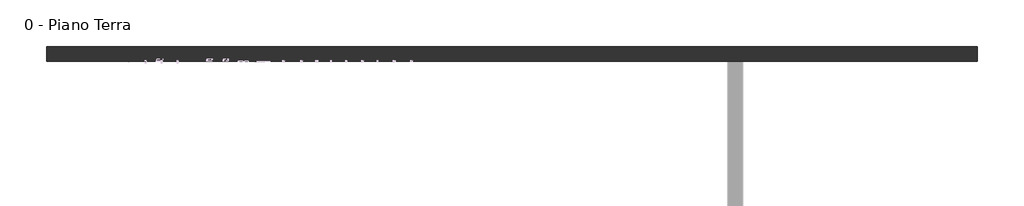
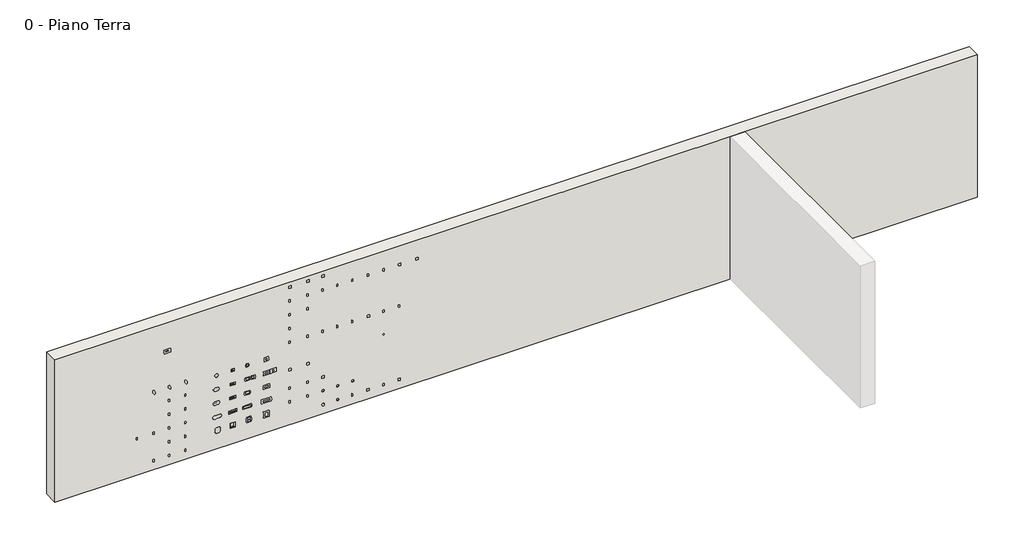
# One storey, part 1 of 2: 1 wall.
"""IFC4 building model written with IfcOpenShell, lengths in millimetres."""

from ifc_helpers import new_model, si_unit, frame, origin, place, context, project, spatial, polyline, circle_curve, element, save
from ifc_brep_helpers import plane_surface, revolved_surface, advanced_brep

model = new_model("IFC4")

# Units and contexts
model_context = context("Model", 3, world=origin())
ifc_project = project(units=[si_unit("LENGTHUNIT", "METRE", prefix="MILLI")], contexts=[model_context])

# Site, building, storey
site = spatial("IfcSite", under=ifc_project)
building = spatial("IfcBuilding", under=site)
storey = spatial("IfcBuildingStorey", under=building, Name="0 - Piano Terra", Elevation=0.0)

# Wall
placement = place(None, origin())
element("IfcWall", 1, ObjectType="Generico - 30 cm", at=placement, inside=storey, context=model_context, shape_type="AdvancedBrep", body=[
    advanced_brep(
    [(-8396.0209547, -424.5551505, 0.0), (5509.9790453, -424.5551505, 0.0), (5809.9790453, -424.5551505, 0.0), (10603.9790453, -424.5551505, 0.0), (10603.9790453, -424.5551505, 3100.0), (5809.9790453, -424.5551505, 3100.0), (5509.9790453, -424.5551505, 3100.0), (-8396.0209547, -424.5551505, 3100.0), (-4705.5209547, -424.5551505, 1628.0), (-4705.5209547, -424.5551505, 1572.0), (-4765.5209547, -424.5551505, 1572.0), (-4765.5209547, -424.5551505, 1628.0), (-4687.0209547, -424.5551505, 1330.0), (-4687.0209547, -424.5551505, 1270.0), (-4784.0209547, -424.5551505, 1270.0), (-4784.0209547, -424.5551505, 1330.0), (-4674.5209547, -424.5551505, 1030.0), (-4674.5209547, -424.5551505, 970.0), (-4796.5209547, -424.5551505, 970.0), (-4796.5209547, -424.5551505, 1030.0), (-4649.5209547, -424.5551505, 730.0), (-4649.5209547, -424.5551505, 670.0), (-4821.5209547, -424.5551505, 670.0), (-4821.5209547, -424.5551505, 730.0), (-4687.0209547, -424.5551505, 453.0), (-4687.0209547, -424.5551505, 347.0), (-4784.0209547, -424.5551505, 347.0), (-4784.0209547, -424.5551505, 453.0), (-2897.23779, -424.5551505, 500.0), (-2854.23779, -424.5551505, 500.0), (-2595.3938702, -424.5551505, 500.0), (-2552.3938702, -424.5551505, 500.0), (-2285.8798643, -424.5551505, 500.0), (-2242.8798643, -424.5551505, 500.0), (-2897.23779, -424.5551505, 200.0), (-2854.23779, -424.5551505, 200.0), (-2595.3938702, -424.5551505, 200.0), (-2552.3938702, -424.5551505, 200.0), (-5090.5209547, -424.5551505, 1330.0), (-5049.5209547, -424.5551505, 1330.0), (-5018.5209547, -424.5551505, 1299.0), (-5018.5209547, -424.5551505, 1294.0), (-5049.5209547, -424.5551505, 1263.0), (-5090.5209547, -424.5551505, 1263.0), (-5121.5209547, -424.5551505, 1294.0), (-5121.5209547, -424.5551505, 1299.0), (-5102.0209547, -424.5551505, 1030.0), (-5038.0209547, -424.5551505, 1030.0), (-5007.0209547, -424.5551505, 999.0), (-5007.0209547, -424.5551505, 994.0), (-5038.0209547, -424.5551505, 963.0), (-5102.0209547, -424.5551505, 963.0), (-5133.0209547, -424.5551505, 994.0), (-5133.0209547, -424.5551505, 999.0), (-5117.0209547, -424.5551505, 730.0), (-4999.0209547, -424.5551505, 730.0), (-4968.0209547, -424.5551505, 699.0), (-4968.0209547, -424.5551505, 694.0), (-4999.0209547, -424.5551505, 663.0), (-5117.0209547, -424.5551505, 663.0), (-5148.0209547, -424.5551505, 694.0), (-5148.0209547, -424.5551505, 699.0), (-5065.5209547, -424.5551505, 457.0), (-5024.5209547, -424.5551505, 457.0), (-4993.5209547, -424.5551505, 426.0), (-4993.5209547, -424.5551505, 374.0), (-5024.5209547, -424.5551505, 343.0), (-5065.5209547, -424.5551505, 343.0), (-5096.5209547, -424.5551505, 374.0), (-5096.5209547, -424.5551505, 426.0), (-5071.0209547, -424.5551505, 1632.0), (-5069.0209547, -424.5551505, 1632.0), (-5038.0209547, -424.5551505, 1601.0), (-5038.0209547, -424.5551505, 1596.0), (-5069.0209547, -424.5551505, 1565.0), (-5071.0209547, -424.5551505, 1565.0), (-5102.0209547, -424.5551505, 1596.0), (-5102.0209547, -424.5551505, 1601.0), (-6025.207539, -424.5551505, 2516.8190499), (-6025.207539, -424.5551505, 2456.8190499), (-6147.207539, -424.5551505, 2456.8190499), (-6147.207539, -424.5551505, 2516.8190499), (10603.9790453, -124.5551505, 0.0), (-8396.0209547, -124.5551505, 0.0), (-8396.0209547, -124.5551505, 3100.0), (10603.9790453, -124.5551505, 3100.0), (-4705.5209547, -410.5551505, 1628.0), (-4705.5209547, -410.5551505, 1634.0), (-4705.5209547, -374.5551505, 1634.0), (-4705.5209547, -374.5551505, 1566.0), (-4705.5209547, -410.5551505, 1566.0), (-4705.5209547, -410.5551505, 1572.0), (-4765.5209547, -410.5551505, 1628.0), (-4765.5209547, -410.5551505, 1572.0), (-4765.5209547, -410.5551505, 1566.0), (-4765.5209547, -374.5551505, 1566.0), (-4765.5209547, -374.5551505, 1634.0), (-4765.5209547, -410.5551505, 1634.0), (-4687.0209547, -410.5551505, 1330.0), (-4687.0209547, -410.5551505, 1336.0), (-4687.0209547, -374.5551505, 1336.0), (-4687.0209547, -374.5551505, 1264.0), (-4687.0209547, -410.5551505, 1264.0), (-4687.0209547, -410.5551505, 1270.0), (-4784.0209547, -410.5551505, 1330.0), (-4784.0209547, -410.5551505, 1270.0), (-4784.0209547, -410.5551505, 1264.0), (-4784.0209547, -374.5551505, 1264.0), (-4784.0209547, -374.5551505, 1336.0), (-4784.0209547, -410.5551505, 1336.0), (-4674.5209547, -410.5551505, 1030.0), (-4674.5209547, -410.5551505, 1036.0), (-4674.5209547, -374.5551505, 1036.0), (-4674.5209547, -374.5551505, 964.0), (-4674.5209547, -410.5551505, 964.0), (-4674.5209547, -410.5551505, 970.0), (-4796.5209547, -410.5551505, 1030.0), (-4796.5209547, -410.5551505, 970.0), (-4796.5209547, -410.5551505, 964.0), (-4796.5209547, -374.5551505, 964.0), (-4796.5209547, -374.5551505, 1036.0), (-4796.5209547, -410.5551505, 1036.0), (-4649.5209547, -410.5551505, 730.0), (-4649.5209547, -410.5551505, 735.0), (-4649.5209547, -374.5551505, 735.0), (-4649.5209547, -374.5551505, 665.0), (-4649.5209547, -410.5551505, 665.0), (-4649.5209547, -410.5551505, 670.0), (-4821.5209547, -410.5551505, 730.0), (-4821.5209547, -410.5551505, 670.0), (-4821.5209547, -410.5551505, 665.0), (-4821.5209547, -374.5551505, 665.0), (-4821.5209547, -374.5551505, 735.0), (-4821.5209547, -410.5551505, 735.0), (-4687.0209547, -410.5551505, 453.0), (-4687.0209547, -410.5551505, 459.0), (-4687.0209547, -374.5551505, 459.0), (-4687.0209547, -374.5551505, 341.0), (-4687.0209547, -410.5551505, 341.0), (-4687.0209547, -410.5551505, 347.0), (-4784.0209547, -410.5551505, 453.0), (-4784.0209547, -410.5551505, 347.0), (-4784.0209547, -410.5551505, 341.0), (-4784.0209547, -374.5551505, 341.0), (-4784.0209547, -374.5551505, 459.0), (-4784.0209547, -410.5551505, 459.0), (-2854.23779, -415.5551505, 500.0), (-2897.23779, -415.5551505, 500.0), (-2552.3938702, -415.5551505, 500.0), (-2595.3938702, -415.5551505, 500.0), (-2242.8798643, -415.5551505, 500.0), (-2285.8798643, -415.5551505, 500.0), (-2854.23779, -415.5551505, 200.0), (-2897.23779, -415.5551505, 200.0), (-2552.3938702, -415.5551505, 200.0), (-2595.3938702, -415.5551505, 200.0), (-5049.5209547, -369.5551505, 1330.0), (-5090.5209547, -369.5551505, 1330.0), (-5121.5209547, -369.5551505, 1299.0), (-5121.5209547, -369.5551505, 1294.0), (-5090.5209547, -369.5551505, 1263.0), (-5049.5209547, -369.5551505, 1263.0), (-5018.5209547, -369.5551505, 1294.0), (-5018.5209547, -369.5551505, 1299.0), (-5038.0209547, -369.5551505, 1030.0), (-5102.0209547, -369.5551505, 1030.0), (-5133.0209547, -369.5551505, 999.0), (-5133.0209547, -369.5551505, 994.0), (-5102.0209547, -369.5551505, 963.0), (-5038.0209547, -369.5551505, 963.0), (-5007.0209547, -369.5551505, 994.0), (-5007.0209547, -369.5551505, 999.0), (-4999.0209547, -369.5551505, 730.0), (-5117.0209547, -369.5551505, 730.0), (-5148.0209547, -369.5551505, 699.0), (-5148.0209547, -369.5551505, 694.0), (-5117.0209547, -369.5551505, 663.0), (-4999.0209547, -369.5551505, 663.0), (-4968.0209547, -369.5551505, 694.0), (-4968.0209547, -369.5551505, 699.0), (-5024.5209547, -369.5551505, 457.0), (-5065.5209547, -369.5551505, 457.0), (-5096.5209547, -369.5551505, 426.0), (-5096.5209547, -369.5551505, 374.0), (-5065.5209547, -369.5551505, 343.0), (-5024.5209547, -369.5551505, 343.0), (-4993.5209547, -369.5551505, 374.0), (-4993.5209547, -369.5551505, 426.0), (-5069.0209547, -369.5551505, 1632.0), (-5071.0209547, -369.5551505, 1632.0), (-5102.0209547, -369.5551505, 1601.0), (-5102.0209547, -369.5551505, 1596.0), (-5071.0209547, -369.5551505, 1565.0), (-5069.0209547, -369.5551505, 1565.0), (-5038.0209547, -369.5551505, 1596.0), (-5038.0209547, -369.5551505, 1601.0), (-6025.207539, -410.5551505, 2516.8190499), (-6025.207539, -410.5551505, 2522.8190499), (-6025.207539, -374.5551505, 2522.8190499), (-6025.207539, -374.5551505, 2450.8190499), (-6025.207539, -410.5551505, 2450.8190499), (-6025.207539, -410.5551505, 2456.8190499), (-6147.207539, -410.5551505, 2516.8190499), (-6147.207539, -410.5551505, 2456.8190499), (-6147.207539, -410.5551505, 2450.8190499), (-6147.207539, -374.5551505, 2450.8190499), (-6147.207539, -374.5551505, 2522.8190499), (-6147.207539, -410.5551505, 2522.8190499)],
    [
        (0, 1),
        (1, 2),
        (2, 3),
        (3, 4),
        (4, 5),
        (5, 6),
        (6, 7),
        (7, 0),
        (8, 9),
        (9, 10),
        (10, 11),
        (11, 8),
        (12, 13),
        (13, 14),
        (14, 15),
        (15, 12),
        (16, 17),
        (17, 18),
        (18, 19),
        (19, 16),
        (20, 21),
        (21, 22),
        (22, 23),
        (23, 20),
        (24, 25),
        (25, 26),
        (26, 27),
        (27, 24),
        (28, 29, circle_curve(frame((-2875.73779, -424.5551505, 500.0), z_axis=(0.0, 1.0, 0.0), x_axis=(-1.0, 0.0, 0.0)), 21.5)),
        (29, 28, circle_curve(frame((-2875.73779, -424.5551505, 500.0), z_axis=(0.0, 1.0, 0.0), x_axis=(-1.0, 0.0, 0.0)), 21.5)),
        (30, 31, circle_curve(frame((-2573.8938702, -424.5551505, 500.0), z_axis=(0.0, 1.0, 0.0), x_axis=(-1.0, 0.0, 0.0)), 21.5)),
        (31, 30, circle_curve(frame((-2573.8938702, -424.5551505, 500.0), z_axis=(0.0, 1.0, 0.0), x_axis=(-1.0, 0.0, 0.0)), 21.5)),
        (32, 33, circle_curve(frame((-2264.3798643, -424.5551505, 500.0), z_axis=(0.0, 1.0, 0.0), x_axis=(-1.0, 0.0, 0.0)), 21.5)),
        (33, 32, circle_curve(frame((-2264.3798643, -424.5551505, 500.0), z_axis=(0.0, 1.0, 0.0), x_axis=(-1.0, 0.0, 0.0)), 21.5)),
        (34, 35, circle_curve(frame((-2875.73779, -424.5551505, 200.0), z_axis=(0.0, 1.0, 0.0), x_axis=(-1.0, 0.0, 0.0)), 21.5)),
        (35, 34, circle_curve(frame((-2875.73779, -424.5551505, 200.0), z_axis=(0.0, 1.0, 0.0), x_axis=(-1.0, 0.0, 0.0)), 21.5)),
        (36, 37, circle_curve(frame((-2573.8938702, -424.5551505, 200.0), z_axis=(0.0, 1.0, 0.0), x_axis=(-1.0, 0.0, 0.0)), 21.5)),
        (37, 36, circle_curve(frame((-2573.8938702, -424.5551505, 200.0), z_axis=(0.0, 1.0, 0.0), x_axis=(-1.0, 0.0, 0.0)), 21.5)),
        (38, 39),
        (39, 40, circle_curve(frame((-5049.5209547, -424.5551505, 1299.0), z_axis=(0.0, 1.0, 0.0), x_axis=(1.0, 0.0, 0.0)), 31.0)),
        (40, 41),
        (41, 42, circle_curve(frame((-5049.5209547, -424.5551505, 1294.0), z_axis=(0.0, 1.0, 0.0), x_axis=(1.0, 0.0, 0.0)), 31.0)),
        (42, 43),
        (43, 44, circle_curve(frame((-5090.5209547, -424.5551505, 1294.0), z_axis=(0.0, 1.0, 0.0), x_axis=(1.0, 0.0, 0.0)), 31.0)),
        (44, 45),
        (45, 38, circle_curve(frame((-5090.5209547, -424.5551505, 1299.0), z_axis=(0.0, 1.0, 0.0), x_axis=(1.0, 0.0, 0.0)), 31.0)),
        (46, 47),
        (47, 48, circle_curve(frame((-5038.0209547, -424.5551505, 999.0), z_axis=(0.0, 1.0, 0.0), x_axis=(1.0, 0.0, 0.0)), 31.0)),
        (48, 49),
        (49, 50, circle_curve(frame((-5038.0209547, -424.5551505, 994.0), z_axis=(0.0, 1.0, 0.0), x_axis=(1.0, 0.0, 0.0)), 31.0)),
        (50, 51),
        (51, 52, circle_curve(frame((-5102.0209547, -424.5551505, 994.0), z_axis=(0.0, 1.0, 0.0), x_axis=(1.0, 0.0, 0.0)), 31.0)),
        (52, 53),
        (53, 46, circle_curve(frame((-5102.0209547, -424.5551505, 999.0), z_axis=(0.0, 1.0, 0.0), x_axis=(1.0, 0.0, 0.0)), 31.0)),
        (54, 55),
        (55, 56, circle_curve(frame((-4999.0209547, -424.5551505, 699.0), z_axis=(0.0, 1.0, 0.0), x_axis=(1.0, 0.0, 0.0)), 31.0)),
        (56, 57),
        (57, 58, circle_curve(frame((-4999.0209547, -424.5551505, 694.0), z_axis=(0.0, 1.0, 0.0), x_axis=(1.0, 0.0, 0.0)), 31.0)),
        (58, 59),
        (59, 60, circle_curve(frame((-5117.0209547, -424.5551505, 694.0), z_axis=(0.0, 1.0, 0.0), x_axis=(1.0, 0.0, 0.0)), 31.0)),
        (60, 61),
        (61, 54, circle_curve(frame((-5117.0209547, -424.5551505, 699.0), z_axis=(0.0, 1.0, 0.0), x_axis=(1.0, 0.0, 0.0)), 31.0)),
        (62, 63),
        (63, 64, circle_curve(frame((-5024.5209547, -424.5551505, 426.0), z_axis=(0.0, 1.0, 0.0), x_axis=(1.0, 0.0, 0.0)), 31.0)),
        (64, 65),
        (65, 66, circle_curve(frame((-5024.5209547, -424.5551505, 374.0), z_axis=(0.0, 1.0, 0.0), x_axis=(1.0, 0.0, 0.0)), 31.0)),
        (66, 67),
        (67, 68, circle_curve(frame((-5065.5209547, -424.5551505, 374.0), z_axis=(0.0, 1.0, 0.0), x_axis=(1.0, 0.0, 0.0)), 31.0)),
        (68, 69),
        (69, 62, circle_curve(frame((-5065.5209547, -424.5551505, 426.0), z_axis=(0.0, 1.0, 0.0), x_axis=(1.0, 0.0, 0.0)), 31.0)),
        (70, 71),
        (71, 72, circle_curve(frame((-5069.0209547, -424.5551505, 1601.0), z_axis=(0.0, 1.0, 0.0), x_axis=(1.0, 0.0, 0.0)), 31.0)),
        (72, 73),
        (73, 74, circle_curve(frame((-5069.0209547, -424.5551505, 1596.0), z_axis=(0.0, 1.0, 0.0), x_axis=(1.0, 0.0, 0.0)), 31.0)),
        (74, 75),
        (75, 76, circle_curve(frame((-5071.0209547, -424.5551505, 1596.0), z_axis=(0.0, 1.0, 0.0), x_axis=(1.0, 0.0, 0.0)), 31.0)),
        (76, 77),
        (77, 70, circle_curve(frame((-5071.0209547, -424.5551505, 1601.0), z_axis=(0.0, 1.0, 0.0), x_axis=(1.0, 0.0, 0.0)), 31.0)),
        (78, 79),
        (79, 80),
        (80, 81),
        (81, 78),
        (82, 83),
        (83, 84),
        (84, 85),
        (85, 82),
        (0, 83),
        (82, 3),
        (85, 4),
        (84, 7),
        (8, 86),
        (86, 87),
        (87, 88),
        (88, 89),
        (89, 90),
        (90, 91),
        (91, 9),
        (11, 92),
        (92, 86),
        (10, 93),
        (93, 94),
        (94, 95),
        (95, 96),
        (96, 97),
        (97, 92),
        (91, 93),
        (97, 87),
        (90, 94),
        (88, 96),
        (95, 89),
        (12, 98),
        (98, 99),
        (99, 100),
        (100, 101),
        (101, 102),
        (102, 103),
        (103, 13),
        (15, 104),
        (104, 98),
        (14, 105),
        (105, 106),
        (106, 107),
        (107, 108),
        (108, 109),
        (109, 104),
        (103, 105),
        (109, 99),
        (102, 106),
        (100, 108),
        (107, 101),
        (16, 110),
        (110, 111),
        (111, 112),
        (112, 113),
        (113, 114),
        (114, 115),
        (115, 17),
        (19, 116),
        (116, 110),
        (18, 117),
        (117, 118),
        (118, 119),
        (119, 120),
        (120, 121),
        (121, 116),
        (115, 117),
        (121, 111),
        (114, 118),
        (112, 120),
        (119, 113),
        (20, 122),
        (122, 123),
        (123, 124),
        (124, 125),
        (125, 126),
        (126, 127),
        (127, 21),
        (23, 128),
        (128, 122),
        (22, 129),
        (129, 130),
        (130, 131),
        (131, 132),
        (132, 133),
        (133, 128),
        (127, 129),
        (133, 123),
        (126, 130),
        (124, 132),
        (131, 125),
        (24, 134),
        (134, 135),
        (135, 136),
        (136, 137),
        (137, 138),
        (138, 139),
        (139, 25),
        (27, 140),
        (140, 134),
        (26, 141),
        (141, 142),
        (142, 143),
        (143, 144),
        (144, 145),
        (145, 140),
        (139, 141),
        (145, 135),
        (138, 142),
        (136, 144),
        (143, 137),
        (146, 147, circle_curve(frame((-2875.73779, -415.5551505, 500.0), z_axis=(0.0, -1.0, 0.0), x_axis=(-1.0, 0.0, 0.0)), 21.5)),
        (147, 146, circle_curve(frame((-2875.73779, -415.5551505, 500.0), z_axis=(0.0, -1.0, 0.0), x_axis=(-1.0, 0.0, 0.0)), 21.5)),
        (146, 29),
        (28, 147),
        (148, 149, circle_curve(frame((-2573.8938702, -415.5551505, 500.0), z_axis=(0.0, -1.0, 0.0), x_axis=(-1.0, 0.0, 0.0)), 21.5)),
        (149, 148, circle_curve(frame((-2573.8938702, -415.5551505, 500.0), z_axis=(0.0, -1.0, 0.0), x_axis=(-1.0, 0.0, 0.0)), 21.5)),
        (148, 31),
        (30, 149),
        (150, 151, circle_curve(frame((-2264.3798643, -415.5551505, 500.0), z_axis=(0.0, -1.0, 0.0), x_axis=(-1.0, 0.0, 0.0)), 21.5)),
        (151, 150, circle_curve(frame((-2264.3798643, -415.5551505, 500.0), z_axis=(0.0, -1.0, 0.0), x_axis=(-1.0, 0.0, 0.0)), 21.5)),
        (150, 33),
        (32, 151),
        (152, 153, circle_curve(frame((-2875.73779, -415.5551505, 200.0), z_axis=(0.0, -1.0, 0.0), x_axis=(-1.0, 0.0, 0.0)), 21.5)),
        (153, 152, circle_curve(frame((-2875.73779, -415.5551505, 200.0), z_axis=(0.0, -1.0, 0.0), x_axis=(-1.0, 0.0, 0.0)), 21.5)),
        (152, 35),
        (34, 153),
        (154, 155, circle_curve(frame((-2573.8938702, -415.5551505, 200.0), z_axis=(0.0, -1.0, 0.0), x_axis=(-1.0, 0.0, 0.0)), 21.5)),
        (155, 154, circle_curve(frame((-2573.8938702, -415.5551505, 200.0), z_axis=(0.0, -1.0, 0.0), x_axis=(-1.0, 0.0, 0.0)), 21.5)),
        (154, 37),
        (36, 155),
        (156, 157),
        (157, 158, circle_curve(frame((-5090.5209547, -369.5551505, 1299.0), z_axis=(0.0, -1.0, 0.0), x_axis=(1.0, 0.0, 0.0)), 31.0)),
        (158, 159),
        (159, 160, circle_curve(frame((-5090.5209547, -369.5551505, 1294.0), z_axis=(0.0, -1.0, 0.0), x_axis=(1.0, 0.0, 0.0)), 31.0)),
        (160, 161),
        (161, 162, circle_curve(frame((-5049.5209547, -369.5551505, 1294.0), z_axis=(0.0, -1.0, 0.0), x_axis=(1.0, 0.0, 0.0)), 31.0)),
        (162, 163),
        (163, 156, circle_curve(frame((-5049.5209547, -369.5551505, 1299.0), z_axis=(0.0, -1.0, 0.0), x_axis=(1.0, 0.0, 0.0)), 31.0)),
        (156, 39),
        (38, 157),
        (45, 158),
        (44, 159),
        (43, 160),
        (164, 165),
        (165, 166, circle_curve(frame((-5102.0209547, -369.5551505, 999.0), z_axis=(0.0, -1.0, 0.0), x_axis=(1.0, 0.0, 0.0)), 31.0)),
        (166, 167),
        (167, 168, circle_curve(frame((-5102.0209547, -369.5551505, 994.0), z_axis=(0.0, -1.0, 0.0), x_axis=(1.0, 0.0, 0.0)), 31.0)),
        (168, 169),
        (169, 170, circle_curve(frame((-5038.0209547, -369.5551505, 994.0), z_axis=(0.0, -1.0, 0.0), x_axis=(1.0, 0.0, 0.0)), 31.0)),
        (170, 171),
        (171, 164, circle_curve(frame((-5038.0209547, -369.5551505, 999.0), z_axis=(0.0, -1.0, 0.0), x_axis=(1.0, 0.0, 0.0)), 31.0)),
        (164, 47),
        (46, 165),
        (53, 166),
        (52, 167),
        (51, 168),
        (172, 173),
        (173, 174, circle_curve(frame((-5117.0209547, -369.5551505, 699.0), z_axis=(0.0, -1.0, 0.0), x_axis=(1.0, 0.0, 0.0)), 31.0)),
        (174, 175),
        (175, 176, circle_curve(frame((-5117.0209547, -369.5551505, 694.0), z_axis=(0.0, -1.0, 0.0), x_axis=(1.0, 0.0, 0.0)), 31.0)),
        (176, 177),
        (177, 178, circle_curve(frame((-4999.0209547, -369.5551505, 694.0), z_axis=(0.0, -1.0, 0.0), x_axis=(1.0, 0.0, 0.0)), 31.0)),
        (178, 179),
        (179, 172, circle_curve(frame((-4999.0209547, -369.5551505, 699.0), z_axis=(0.0, -1.0, 0.0), x_axis=(1.0, 0.0, 0.0)), 31.0)),
        (172, 55),
        (54, 173),
        (61, 174),
        (60, 175),
        (59, 176),
        (58, 177),
        (57, 178),
        (56, 179),
        (50, 169),
        (49, 170),
        (48, 171),
        (42, 161),
        (41, 162),
        (40, 163),
        (180, 181),
        (181, 182, circle_curve(frame((-5065.5209547, -369.5551505, 426.0), z_axis=(0.0, -1.0, 0.0), x_axis=(1.0, 0.0, 0.0)), 31.0)),
        (182, 183),
        (183, 184, circle_curve(frame((-5065.5209547, -369.5551505, 374.0), z_axis=(0.0, -1.0, 0.0), x_axis=(1.0, 0.0, 0.0)), 31.0)),
        (184, 185),
        (185, 186, circle_curve(frame((-5024.5209547, -369.5551505, 374.0), z_axis=(0.0, -1.0, 0.0), x_axis=(1.0, 0.0, 0.0)), 31.0)),
        (186, 187),
        (187, 180, circle_curve(frame((-5024.5209547, -369.5551505, 426.0), z_axis=(0.0, -1.0, 0.0), x_axis=(1.0, 0.0, 0.0)), 31.0)),
        (180, 63),
        (62, 181),
        (69, 182),
        (68, 183),
        (67, 184),
        (66, 185),
        (65, 186),
        (64, 187),
        (188, 189),
        (189, 190, circle_curve(frame((-5071.0209547, -369.5551505, 1601.0), z_axis=(0.0, -1.0, 0.0), x_axis=(1.0, 0.0, 0.0)), 31.0)),
        (190, 191),
        (191, 192, circle_curve(frame((-5071.0209547, -369.5551505, 1596.0), z_axis=(0.0, -1.0, 0.0), x_axis=(1.0, 0.0, 0.0)), 31.0)),
        (192, 193),
        (193, 194, circle_curve(frame((-5069.0209547, -369.5551505, 1596.0), z_axis=(0.0, -1.0, 0.0), x_axis=(1.0, 0.0, 0.0)), 31.0)),
        (194, 195),
        (195, 188, circle_curve(frame((-5069.0209547, -369.5551505, 1601.0), z_axis=(0.0, -1.0, 0.0), x_axis=(1.0, 0.0, 0.0)), 31.0)),
        (188, 71),
        (70, 189),
        (77, 190),
        (76, 191),
        (75, 192),
        (74, 193),
        (73, 194),
        (72, 195),
        (78, 196),
        (196, 197),
        (197, 198),
        (198, 199),
        (199, 200),
        (200, 201),
        (201, 79),
        (81, 202),
        (202, 196),
        (80, 203),
        (203, 204),
        (204, 205),
        (205, 206),
        (206, 207),
        (207, 202),
        (201, 203),
        (207, 197),
        (200, 204),
        (198, 206),
        (205, 199),
    ],
    [
        plane_surface(frame((-8396.0209547, -424.5551505, 0.0), z_axis=(0.0, -1.0, 0.0), x_axis=(1.0, 0.0, 0.0))),
        plane_surface(frame((-8396.0209547, -124.5551505, 0.0), z_axis=(0.0, 1.0, 0.0), x_axis=(-1.0, 0.0, 0.0))),
        plane_surface(frame((-8396.0209547, -424.5551505, 0.0), z_axis=(0.0, 0.0, -1.0), x_axis=(0.0, 1.0, 0.0))),
        plane_surface(frame((10603.9790453, -424.5551505, 0.0), z_axis=(1.0, 0.0, 0.0), x_axis=(0.0, 1.0, 0.0))),
        plane_surface(frame((10603.9790453, -424.5551505, 3100.0), z_axis=(0.0, 0.0, 1.0), x_axis=(0.0, 1.0, 0.0))),
        plane_surface(frame((-8396.0209547, -424.5551505, 3100.0), z_axis=(-1.0, 0.0, 0.0), x_axis=(0.0, 1.0, 0.0))),
        plane_surface(frame((-4705.5209547, -424.5551505, 1572.0), z_axis=(-1.0, 0.0, 0.0), x_axis=(0.0, 1.0, 0.0))),
        plane_surface(frame((-4705.5209547, -424.5551505, 1628.0), z_axis=(0.0, 0.0, -1.0), x_axis=(0.0, 1.0, 0.0))),
        plane_surface(frame((-4765.5209547, -424.5551505, 1628.0), z_axis=(1.0, 0.0, 0.0), x_axis=(0.0, 1.0, 0.0))),
        plane_surface(frame((-4765.5209547, -424.5551505, 1572.0), z_axis=(0.0, 0.0, 1.0), x_axis=(0.0, 1.0, 0.0))),
        plane_surface(frame((-4705.5209547, -410.5551505, 1566.0), z_axis=(0.0, 1.0, 0.0), x_axis=(0.0, 0.0, 1.0))),
        plane_surface(frame((-4705.5209547, -374.5551505, 1566.0), z_axis=(0.0, -1.0, 0.0), x_axis=(0.0, 0.0, -1.0))),
        plane_surface(frame((-4705.5209547, -410.5551505, 1634.0), z_axis=(0.0, 0.0, -1.0), x_axis=(0.0, 1.0, 0.0))),
        plane_surface(frame((-4765.5209547, -410.5551505, 1566.0), z_axis=(0.0, 0.0, 1.0), x_axis=(0.0, 1.0, 0.0))),
        plane_surface(frame((-4687.0209547, -424.5551505, 1270.0), z_axis=(-1.0, 0.0, 0.0), x_axis=(0.0, 1.0, 0.0))),
        plane_surface(frame((-4687.0209547, -424.5551505, 1330.0), z_axis=(0.0, 0.0, -1.0), x_axis=(0.0, 1.0, 0.0))),
        plane_surface(frame((-4784.0209547, -424.5551505, 1330.0), z_axis=(1.0, 0.0, 0.0), x_axis=(0.0, 1.0, 0.0))),
        plane_surface(frame((-4784.0209547, -424.5551505, 1270.0), z_axis=(0.0, 0.0, 1.0), x_axis=(0.0, 1.0, 0.0))),
        plane_surface(frame((-4687.0209547, -410.5551505, 1264.0), z_axis=(0.0, 1.0, 0.0), x_axis=(0.0, 0.0, 1.0))),
        plane_surface(frame((-4687.0209547, -374.5551505, 1264.0), z_axis=(0.0, -1.0, 0.0), x_axis=(0.0, 0.0, -1.0))),
        plane_surface(frame((-4687.0209547, -410.5551505, 1336.0), z_axis=(0.0, 0.0, -1.0), x_axis=(0.0, 1.0, 0.0))),
        plane_surface(frame((-4784.0209547, -410.5551505, 1264.0), z_axis=(0.0, 0.0, 1.0), x_axis=(0.0, 1.0, 0.0))),
        plane_surface(frame((-4674.5209547, -424.5551505, 970.0), z_axis=(-1.0, 0.0, 0.0), x_axis=(0.0, 1.0, 0.0))),
        plane_surface(frame((-4674.5209547, -424.5551505, 1030.0), z_axis=(0.0, 0.0, -1.0), x_axis=(0.0, 1.0, 0.0))),
        plane_surface(frame((-4796.5209547, -424.5551505, 1030.0), z_axis=(1.0, 0.0, 0.0), x_axis=(0.0, 1.0, 0.0))),
        plane_surface(frame((-4796.5209547, -424.5551505, 970.0), z_axis=(0.0, 0.0, 1.0), x_axis=(0.0, 1.0, 0.0))),
        plane_surface(frame((-4674.5209547, -410.5551505, 964.0), z_axis=(0.0, 1.0, 0.0), x_axis=(0.0, 0.0, 1.0))),
        plane_surface(frame((-4674.5209547, -374.5551505, 964.0), z_axis=(0.0, -1.0, 0.0), x_axis=(0.0, 0.0, -1.0))),
        plane_surface(frame((-4674.5209547, -410.5551505, 1036.0), z_axis=(0.0, 0.0, -1.0), x_axis=(0.0, 1.0, 0.0))),
        plane_surface(frame((-4796.5209547, -410.5551505, 964.0), z_axis=(0.0, 0.0, 1.0), x_axis=(0.0, 1.0, 0.0))),
        plane_surface(frame((-4649.5209547, -424.5551505, 670.0), z_axis=(-1.0, 0.0, 0.0), x_axis=(0.0, 1.0, 0.0))),
        plane_surface(frame((-4649.5209547, -424.5551505, 730.0), z_axis=(0.0, 0.0, -1.0), x_axis=(0.0, 1.0, 0.0))),
        plane_surface(frame((-4821.5209547, -424.5551505, 730.0), z_axis=(1.0, 0.0, 0.0), x_axis=(0.0, 1.0, 0.0))),
        plane_surface(frame((-4821.5209547, -424.5551505, 670.0), z_axis=(0.0, 0.0, 1.0), x_axis=(0.0, 1.0, 0.0))),
        plane_surface(frame((-4649.5209547, -410.5551505, 665.0), z_axis=(0.0, 1.0, 0.0), x_axis=(0.0, 0.0, 1.0))),
        plane_surface(frame((-4649.5209547, -374.5551505, 665.0), z_axis=(0.0, -1.0, 0.0), x_axis=(0.0, 0.0, -1.0))),
        plane_surface(frame((-4649.5209547, -410.5551505, 735.0), z_axis=(0.0, 0.0, -1.0), x_axis=(0.0, 1.0, 0.0))),
        plane_surface(frame((-4821.5209547, -410.5551505, 665.0), z_axis=(0.0, 0.0, 1.0), x_axis=(0.0, 1.0, 0.0))),
        plane_surface(frame((-4687.0209547, -424.5551505, 347.0), z_axis=(-1.0, 0.0, 0.0), x_axis=(0.0, 1.0, 0.0))),
        plane_surface(frame((-4687.0209547, -424.5551505, 453.0), z_axis=(0.0, 0.0, -1.0), x_axis=(0.0, 1.0, 0.0))),
        plane_surface(frame((-4784.0209547, -424.5551505, 453.0), z_axis=(1.0, 0.0, 0.0), x_axis=(0.0, 1.0, 0.0))),
        plane_surface(frame((-4784.0209547, -424.5551505, 347.0), z_axis=(0.0, 0.0, 1.0), x_axis=(0.0, 1.0, 0.0))),
        plane_surface(frame((-4687.0209547, -410.5551505, 341.0), z_axis=(0.0, 1.0, 0.0), x_axis=(0.0, 0.0, 1.0))),
        plane_surface(frame((-4687.0209547, -374.5551505, 341.0), z_axis=(0.0, -1.0, 0.0), x_axis=(0.0, 0.0, -1.0))),
        plane_surface(frame((-4687.0209547, -410.5551505, 459.0), z_axis=(0.0, 0.0, -1.0), x_axis=(0.0, 1.0, 0.0))),
        plane_surface(frame((-4784.0209547, -410.5551505, 341.0), z_axis=(0.0, 0.0, 1.0), x_axis=(0.0, 1.0, 0.0))),
        plane_surface(frame((-2897.23779, -415.5551505, 500.0), z_axis=(0.0, -1.0, 0.0), x_axis=(0.0, 0.0, 1.0))),
        revolved_surface(polyline([(-2897.23779, -424.5551505, 500.0), (-2897.23779, -415.5551505, 500.0)]), (-2875.73779, -415.5551505, 500.0), (0.0, -1.0, 0.0)),
        plane_surface(frame((-2595.3938702, -415.5551505, 500.0), z_axis=(0.0, -1.0, 0.0), x_axis=(0.0, 0.0, 1.0))),
        revolved_surface(polyline([(-2595.3938702, -424.5551505, 500.0), (-2595.3938702, -415.5551505, 500.0)]), (-2573.8938702, -415.5551505, 500.0), (0.0, -1.0, 0.0)),
        plane_surface(frame((-2285.8798643, -415.5551505, 500.0), z_axis=(0.0, -1.0, 0.0), x_axis=(0.0, 0.0, 1.0))),
        revolved_surface(polyline([(-2285.8798643, -424.5551505, 500.0), (-2285.8798643, -415.5551505, 500.0)]), (-2264.3798643, -415.5551505, 500.0), (0.0, -1.0, 0.0)),
        plane_surface(frame((-2897.23779, -415.5551505, 200.0), z_axis=(0.0, -1.0, 0.0), x_axis=(0.0, 0.0, 1.0))),
        revolved_surface(polyline([(-2897.23779, -424.5551505, 200.0), (-2897.23779, -415.5551505, 200.0)]), (-2875.73779, -415.5551505, 200.0), (0.0, -1.0, 0.0)),
        plane_surface(frame((-2595.3938702, -415.5551505, 200.0), z_axis=(0.0, -1.0, 0.0), x_axis=(0.0, 0.0, 1.0))),
        revolved_surface(polyline([(-2595.3938702, -424.5551505, 200.0), (-2595.3938702, -415.5551505, 200.0)]), (-2573.8938702, -415.5551505, 200.0), (0.0, -1.0, 0.0)),
        plane_surface(frame((-5090.5209547, -369.5551505, 1330.0), z_axis=(0.0, -1.0, 0.0), x_axis=(1.0, 0.0, 0.0))),
        plane_surface(frame((-5049.5209547, -424.5551505, 1330.0), z_axis=(0.0, 0.0, -1.0), x_axis=(0.0, 1.0, 0.0))),
        revolved_surface(polyline([(-5059.5209547, -424.5551505, 1299.0), (-5059.5209547, -369.5551505, 1299.0)]), (-5090.5209547, -369.5551505, 1299.0), (0.0, -1.0, 0.0)),
        plane_surface(frame((-5121.5209547, -424.5551505, 1299.0), z_axis=(1.0, 0.0, 0.0), x_axis=(0.0, 1.0, 0.0))),
        revolved_surface(polyline([(-5059.5209547, -424.5551505, 1294.0), (-5059.5209547, -369.5551505, 1294.0)]), (-5090.5209547, -369.5551505, 1294.0), (0.0, -1.0, 0.0)),
        plane_surface(frame((-5102.0209547, -369.5551505, 1030.0), z_axis=(0.0, -1.0, 0.0), x_axis=(1.0, 0.0, 0.0))),
        plane_surface(frame((-5038.0209547, -424.5551505, 1030.0), z_axis=(0.0, 0.0, -1.0), x_axis=(0.0, 1.0, 0.0))),
        revolved_surface(polyline([(-5071.0209547, -424.5551505, 999.0), (-5071.0209547, -369.5551505, 999.0)]), (-5102.0209547, -369.5551505, 999.0), (0.0, -1.0, 0.0)),
        plane_surface(frame((-5133.0209547, -424.5551505, 999.0), z_axis=(1.0, 0.0, 0.0), x_axis=(0.0, 1.0, 0.0))),
        revolved_surface(polyline([(-5071.0209547, -424.5551505, 994.0), (-5071.0209547, -369.5551505, 994.0)]), (-5102.0209547, -369.5551505, 994.0), (0.0, -1.0, 0.0)),
        plane_surface(frame((-5117.0209547, -369.5551505, 730.0), z_axis=(0.0, -1.0, 0.0), x_axis=(1.0, 0.0, 0.0))),
        plane_surface(frame((-4999.0209547, -424.5551505, 730.0), z_axis=(0.0, 0.0, -1.0), x_axis=(0.0, 1.0, 0.0))),
        revolved_surface(polyline([(-5086.0209547, -424.5551505, 699.0), (-5086.0209547, -369.5551505, 699.0)]), (-5117.0209547, -369.5551505, 699.0), (0.0, -1.0, 0.0)),
        plane_surface(frame((-5148.0209547, -424.5551505, 699.0), z_axis=(1.0, 0.0, 0.0), x_axis=(0.0, 1.0, 0.0))),
        revolved_surface(polyline([(-5086.0209547, -424.5551505, 694.0), (-5086.0209547, -369.5551505, 694.0)]), (-5117.0209547, -369.5551505, 694.0), (0.0, -1.0, 0.0)),
        plane_surface(frame((-5117.0209547, -424.5551505, 663.0), z_axis=(0.0, 0.0, 1.0), x_axis=(0.0, 1.0, 0.0))),
        revolved_surface(polyline([(-4968.0209547, -424.5551505, 694.0), (-4968.0209547, -369.5551505, 694.0)]), (-4999.0209547, -369.5551505, 694.0), (0.0, -1.0, 0.0)),
        plane_surface(frame((-4968.0209547, -424.5551505, 694.0), z_axis=(-1.0, 0.0, 0.0), x_axis=(0.0, 1.0, 0.0))),
        revolved_surface(polyline([(-4968.0209547, -424.5551505, 699.0), (-4968.0209547, -369.5551505, 699.0)]), (-4999.0209547, -369.5551505, 699.0), (0.0, -1.0, 0.0)),
        plane_surface(frame((-5102.0209547, -424.5551505, 963.0), z_axis=(0.0, 0.0, 1.0), x_axis=(0.0, 1.0, 0.0))),
        revolved_surface(polyline([(-5007.0209547, -424.5551505, 994.0), (-5007.0209547, -369.5551505, 994.0)]), (-5038.0209547, -369.5551505, 994.0), (0.0, -1.0, 0.0)),
        plane_surface(frame((-5007.0209547, -424.5551505, 994.0), z_axis=(-1.0, 0.0, 0.0), x_axis=(0.0, 1.0, 0.0))),
        revolved_surface(polyline([(-5007.0209547, -424.5551505, 999.0), (-5007.0209547, -369.5551505, 999.0)]), (-5038.0209547, -369.5551505, 999.0), (0.0, -1.0, 0.0)),
        plane_surface(frame((-5090.5209547, -424.5551505, 1263.0), z_axis=(0.0, 0.0, 1.0), x_axis=(0.0, 1.0, 0.0))),
        revolved_surface(polyline([(-5018.5209547, -424.5551505, 1294.0), (-5018.5209547, -369.5551505, 1294.0)]), (-5049.5209547, -369.5551505, 1294.0), (0.0, -1.0, 0.0)),
        plane_surface(frame((-5018.5209547, -424.5551505, 1294.0), z_axis=(-1.0, 0.0, 0.0), x_axis=(0.0, 1.0, 0.0))),
        revolved_surface(polyline([(-5018.5209547, -424.5551505, 1299.0), (-5018.5209547, -369.5551505, 1299.0)]), (-5049.5209547, -369.5551505, 1299.0), (0.0, -1.0, 0.0)),
        plane_surface(frame((-5065.5209547, -369.5551505, 457.0), z_axis=(0.0, -1.0, 0.0), x_axis=(1.0, 0.0, 0.0))),
        plane_surface(frame((-5024.5209547, -424.5551505, 457.0), z_axis=(0.0, 0.0, -1.0), x_axis=(0.0, 1.0, 0.0))),
        revolved_surface(polyline([(-5034.5209547, -424.5551505, 426.0), (-5034.5209547, -369.5551505, 426.0)]), (-5065.5209547, -369.5551505, 426.0), (0.0, -1.0, 0.0)),
        plane_surface(frame((-5096.5209547, -424.5551505, 426.0), z_axis=(1.0, 0.0, 0.0), x_axis=(0.0, 1.0, 0.0))),
        revolved_surface(polyline([(-5034.5209547, -424.5551505, 374.0), (-5034.5209547, -369.5551505, 374.0)]), (-5065.5209547, -369.5551505, 374.0), (0.0, -1.0, 0.0)),
        plane_surface(frame((-5065.5209547, -424.5551505, 343.0), z_axis=(0.0, 0.0, 1.0), x_axis=(0.0, 1.0, 0.0))),
        revolved_surface(polyline([(-4993.5209547, -424.5551505, 374.0), (-4993.5209547, -369.5551505, 374.0)]), (-5024.5209547, -369.5551505, 374.0), (0.0, -1.0, 0.0)),
        plane_surface(frame((-4993.5209547, -424.5551505, 374.0), z_axis=(-1.0, 0.0, 0.0), x_axis=(0.0, 1.0, 0.0))),
        revolved_surface(polyline([(-4993.5209547, -424.5551505, 426.0), (-4993.5209547, -369.5551505, 426.0)]), (-5024.5209547, -369.5551505, 426.0), (0.0, -1.0, 0.0)),
        plane_surface(frame((-5071.0209547, -369.5551505, 1632.0), z_axis=(0.0, -1.0, 0.0), x_axis=(1.0, 0.0, 0.0))),
        plane_surface(frame((-5069.0209547, -424.5551505, 1632.0), z_axis=(0.0, 0.0, -1.0), x_axis=(0.0, 1.0, 0.0))),
        revolved_surface(polyline([(-5040.0209547, -424.5551505, 1601.0), (-5040.0209547, -369.5551505, 1601.0)]), (-5071.0209547, -369.5551505, 1601.0), (0.0, -1.0, 0.0)),
        plane_surface(frame((-5102.0209547, -424.5551505, 1601.0), z_axis=(1.0, 0.0, 0.0), x_axis=(0.0, 1.0, 0.0))),
        revolved_surface(polyline([(-5040.0209547, -424.5551505, 1596.0), (-5040.0209547, -369.5551505, 1596.0)]), (-5071.0209547, -369.5551505, 1596.0), (0.0, -1.0, 0.0)),
        plane_surface(frame((-5071.0209547, -424.5551505, 1565.0), z_axis=(0.0, 0.0, 1.0), x_axis=(0.0, 1.0, 0.0))),
        revolved_surface(polyline([(-5038.0209547, -424.5551505, 1596.0), (-5038.0209547, -369.5551505, 1596.0)]), (-5069.0209547, -369.5551505, 1596.0), (0.0, -1.0, 0.0)),
        plane_surface(frame((-5038.0209547, -424.5551505, 1596.0), z_axis=(-1.0, 0.0, 0.0), x_axis=(0.0, 1.0, 0.0))),
        revolved_surface(polyline([(-5038.0209547, -424.5551505, 1601.0), (-5038.0209547, -369.5551505, 1601.0)]), (-5069.0209547, -369.5551505, 1601.0), (0.0, -1.0, 0.0)),
        plane_surface(frame((-6025.207539, -424.5551505, 2456.8190499), z_axis=(-1.0, 0.0, 0.0), x_axis=(0.0, 1.0, 0.0))),
        plane_surface(frame((-6025.207539, -424.5551505, 2516.8190499), z_axis=(0.0, 0.0, -1.0), x_axis=(0.0, 1.0, 0.0))),
        plane_surface(frame((-6147.207539, -424.5551505, 2516.8190499), z_axis=(1.0, 0.0, 0.0), x_axis=(0.0, 1.0, 0.0))),
        plane_surface(frame((-6147.207539, -424.5551505, 2456.8190499), z_axis=(0.0, 0.0, 1.0), x_axis=(0.0, 1.0, 0.0))),
        plane_surface(frame((-6025.207539, -410.5551505, 2450.8190499), z_axis=(0.0, 1.0, 0.0), x_axis=(0.0, 0.0, 1.0))),
        plane_surface(frame((-6025.207539, -374.5551505, 2450.8190499), z_axis=(0.0, -1.0, 0.0), x_axis=(0.0, 0.0, -1.0))),
        plane_surface(frame((-6025.207539, -410.5551505, 2522.8190499), z_axis=(0.0, 0.0, -1.0), x_axis=(0.0, 1.0, 0.0))),
        plane_surface(frame((-6147.207539, -410.5551505, 2450.8190499), z_axis=(0.0, 0.0, 1.0), x_axis=(0.0, 1.0, 0.0))),
    ],
    [
        (0, [[1, 2, 3, 4, 5, 6, 7, 8], [9, 10, 11, 12], [13, 14, 15, 16], [17, 18, 19, 20], [21, 22, 23, 24], [25, 26, 27, 28], [29, 30], [31, 32], [33, 34], [35, 36], [37, 38], [39, 40, 41, 42, 43, 44, 45, 46], [47, 48, 49, 50, 51, 52, 53, 54], [55, 56, 57, 58, 59, 60, 61, 62], [63, 64, 65, 66, 67, 68, 69, 70], [71, 72, 73, 74, 75, 76, 77, 78], [79, 80, 81, 82]]),
        (1, [[83, 84, 85, 86]]),
        (2, [[-3, -2, -1, 87, -83, 88]]),
        (3, [[-4, -88, -86, 89]]),
        (4, [[-7, -6, -5, -89, -85, 90]]),
        (5, [[-8, -90, -84, -87]]),
        (6, [[91, 92, 93, 94, 95, 96, 97, -9]]),
        (7, [[-91, -12, 98, 99]]),
        (8, [[-98, -11, 100, 101, 102, 103, 104, 105]]),
        (9, [[-97, 106, -100, -10]]),
        (10, [[-92, -99, -105, 107]]),
        (10, [[-96, 108, -101, -106]]),
        (11, [[-94, 109, -103, 110]]),
        (12, [[-93, -107, -104, -109]]),
        (13, [[-95, -110, -102, -108]]),
        (14, [[111, 112, 113, 114, 115, 116, 117, -13]]),
        (15, [[-111, -16, 118, 119]]),
        (16, [[-118, -15, 120, 121, 122, 123, 124, 125]]),
        (17, [[-117, 126, -120, -14]]),
        (18, [[-112, -119, -125, 127]]),
        (18, [[-116, 128, -121, -126]]),
        (19, [[-114, 129, -123, 130]]),
        (20, [[-113, -127, -124, -129]]),
        (21, [[-115, -130, -122, -128]]),
        (22, [[131, 132, 133, 134, 135, 136, 137, -17]]),
        (23, [[-131, -20, 138, 139]]),
        (24, [[-138, -19, 140, 141, 142, 143, 144, 145]]),
        (25, [[-137, 146, -140, -18]]),
        (26, [[-132, -139, -145, 147]]),
        (26, [[-136, 148, -141, -146]]),
        (27, [[-134, 149, -143, 150]]),
        (28, [[-133, -147, -144, -149]]),
        (29, [[-135, -150, -142, -148]]),
        (30, [[151, 152, 153, 154, 155, 156, 157, -21]]),
        (31, [[-151, -24, 158, 159]]),
        (32, [[-158, -23, 160, 161, 162, 163, 164, 165]]),
        (33, [[-157, 166, -160, -22]]),
        (34, [[-152, -159, -165, 167]]),
        (34, [[-156, 168, -161, -166]]),
        (35, [[-154, 169, -163, 170]]),
        (36, [[-153, -167, -164, -169]]),
        (37, [[-155, -170, -162, -168]]),
        (38, [[171, 172, 173, 174, 175, 176, 177, -25]]),
        (39, [[-171, -28, 178, 179]]),
        (40, [[-178, -27, 180, 181, 182, 183, 184, 185]]),
        (41, [[-177, 186, -180, -26]]),
        (42, [[-172, -179, -185, 187]]),
        (42, [[-176, 188, -181, -186]]),
        (43, [[-174, 189, -183, 190]]),
        (44, [[-173, -187, -184, -189]]),
        (45, [[-175, -190, -182, -188]]),
        (46, [[191, 192]]),
        (47, [[-191, 193, -29, 194]]),
        (47, [[-192, -194, -30, -193]]),
        (48, [[195, 196]]),
        (49, [[-195, 197, -31, 198]]),
        (49, [[-196, -198, -32, -197]]),
        (50, [[199, 200]]),
        (51, [[-199, 201, -33, 202]]),
        (51, [[-200, -202, -34, -201]]),
        (52, [[203, 204]]),
        (53, [[-203, 205, -35, 206]]),
        (53, [[-204, -206, -36, -205]]),
        (54, [[207, 208]]),
        (55, [[-207, 209, -37, 210]]),
        (55, [[-208, -210, -38, -209]]),
        (56, [[211, 212, 213, 214, 215, 216, 217, 218]]),
        (57, [[-211, 219, -39, 220]]),
        (58, [[-212, -220, -46, 221]]),
        (59, [[-213, -221, -45, 222]]),
        (60, [[-214, -222, -44, 223]]),
        (61, [[224, 225, 226, 227, 228, 229, 230, 231]]),
        (62, [[-224, 232, -47, 233]]),
        (63, [[-225, -233, -54, 234]]),
        (64, [[-226, -234, -53, 235]]),
        (65, [[-227, -235, -52, 236]]),
        (66, [[237, 238, 239, 240, 241, 242, 243, 244]]),
        (67, [[-237, 245, -55, 246]]),
        (68, [[-238, -246, -62, 247]]),
        (69, [[-239, -247, -61, 248]]),
        (70, [[-240, -248, -60, 249]]),
        (71, [[-241, -249, -59, 250]]),
        (72, [[-242, -250, -58, 251]]),
        (73, [[-243, -251, -57, 252]]),
        (74, [[-244, -252, -56, -245]]),
        (75, [[-228, -236, -51, 253]]),
        (76, [[-229, -253, -50, 254]]),
        (77, [[-230, -254, -49, 255]]),
        (78, [[-231, -255, -48, -232]]),
        (79, [[-215, -223, -43, 256]]),
        (80, [[-216, -256, -42, 257]]),
        (81, [[-217, -257, -41, 258]]),
        (82, [[-218, -258, -40, -219]]),
        (83, [[259, 260, 261, 262, 263, 264, 265, 266]]),
        (84, [[-259, 267, -63, 268]]),
        (85, [[-260, -268, -70, 269]]),
        (86, [[-261, -269, -69, 270]]),
        (87, [[-262, -270, -68, 271]]),
        (88, [[-263, -271, -67, 272]]),
        (89, [[-264, -272, -66, 273]]),
        (90, [[-265, -273, -65, 274]]),
        (91, [[-266, -274, -64, -267]]),
        (92, [[275, 276, 277, 278, 279, 280, 281, 282]]),
        (93, [[-275, 283, -71, 284]]),
        (94, [[-276, -284, -78, 285]]),
        (95, [[-277, -285, -77, 286]]),
        (96, [[-278, -286, -76, 287]]),
        (97, [[-279, -287, -75, 288]]),
        (98, [[-280, -288, -74, 289]]),
        (99, [[-281, -289, -73, 290]]),
        (100, [[-282, -290, -72, -283]]),
        (101, [[291, 292, 293, 294, 295, 296, 297, -79]]),
        (102, [[-291, -82, 298, 299]]),
        (103, [[-298, -81, 300, 301, 302, 303, 304, 305]]),
        (104, [[-297, 306, -300, -80]]),
        (105, [[-292, -299, -305, 307]]),
        (105, [[-296, 308, -301, -306]]),
        (106, [[-294, 309, -303, 310]]),
        (107, [[-293, -307, -304, -309]]),
        (108, [[-295, -310, -302, -308]]),
    ],
),
])

save(model, "model.ifc")
